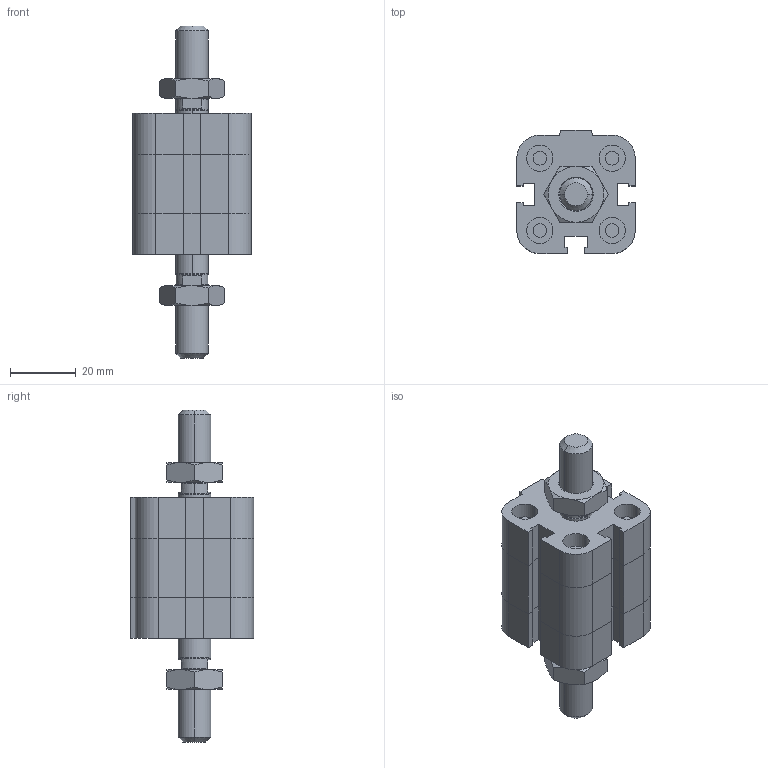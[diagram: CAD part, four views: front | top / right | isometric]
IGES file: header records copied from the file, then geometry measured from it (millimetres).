
Global section: file name: No Iges File Name specified; native system: Autodesk Inventor 2009; preprocessor: AutoDesk Inventor Iges Exporter R2009; author: maffial1; date: 20090420.200839; units: millimetre
Bounding box: 36 x 37.5 x 101 mm (x, y, z)
Volume: 53133.3 mm3; surface area: 18785.5 mm2
Topology: 4 solids, 4 shells, 260 faces, 574 edges, 342 vertices
Faces by surface type: plane 129, bspline 51, cone 38, cylinder 22, revolution 20
